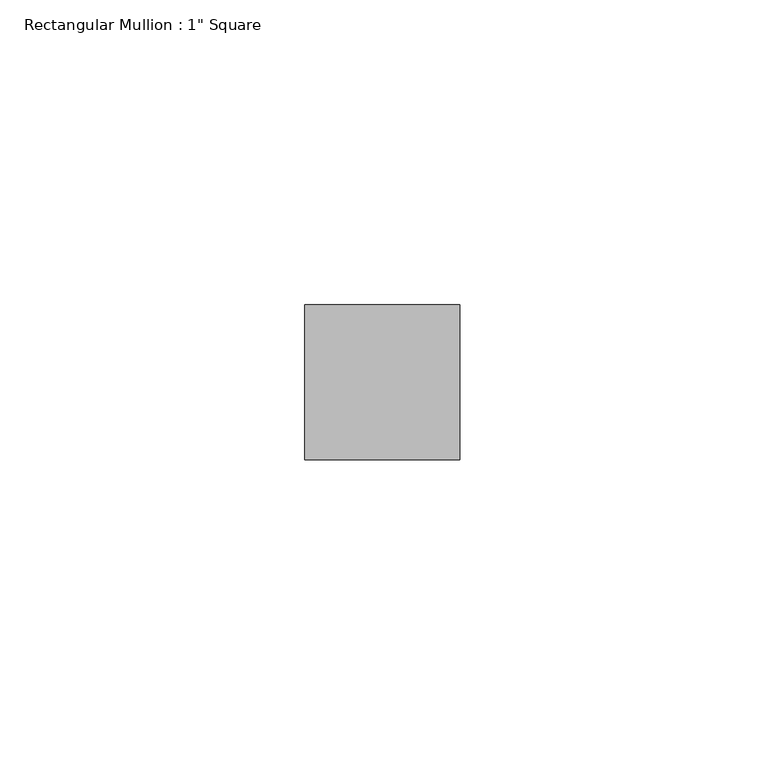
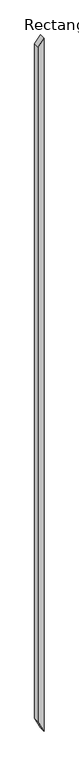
"""IFC4 building model written with IfcOpenShell, lengths in millimetres: member geometry."""

from ifc_helpers import new_model, si_unit, frame, origin, place, context, project, spatial, polyline, outline, extrude, source, transform, mapped, element, save


def member_e654893a(model_context):
    return source(origin(), model_context, "Body", "SweptSolid", [
        extrude(outline(polyline([(0.0, 0.0), (-31.75, -25.4), (-3128.7845234, -25.4), (-3181.6323945, 0.0), (0.0, 0.0)])), frame((0.0, -12.7, 0.0), z_axis=(0.0, 1.0, 0.0), x_axis=(0.0, 0.0, 1.0)), (0.0, 0.0, 1.0), 25.4),
    ])


if __name__ == "__main__":
    model = new_model("IFC4")
    model_context = context("Model", 3, world=origin())
    ifc_project = project(units=[si_unit("LENGTHUNIT", "METRE", prefix="MILLI")], contexts=[model_context])
    site = spatial("IfcSite", under=ifc_project)
    building = spatial("IfcBuilding", under=site)
    placement = place(None, origin())
    member_shape = member_e654893a(model_context)
    element("IfcMember", 1, ObjectType="Rectangular Mullion : 1\" Square", at=placement, inside=building, context=model_context, shape_type="MappedRepresentation", body=[
        mapped(member_shape, transform((0.0, 0.0, 0.0), x_axis=(1.0, 0.0, 0.0), y_axis=(0.0, 1.0, 0.0), z_axis=(0.0, 0.0, 1.0))),
    ])
    save(model, "model.ifc")
